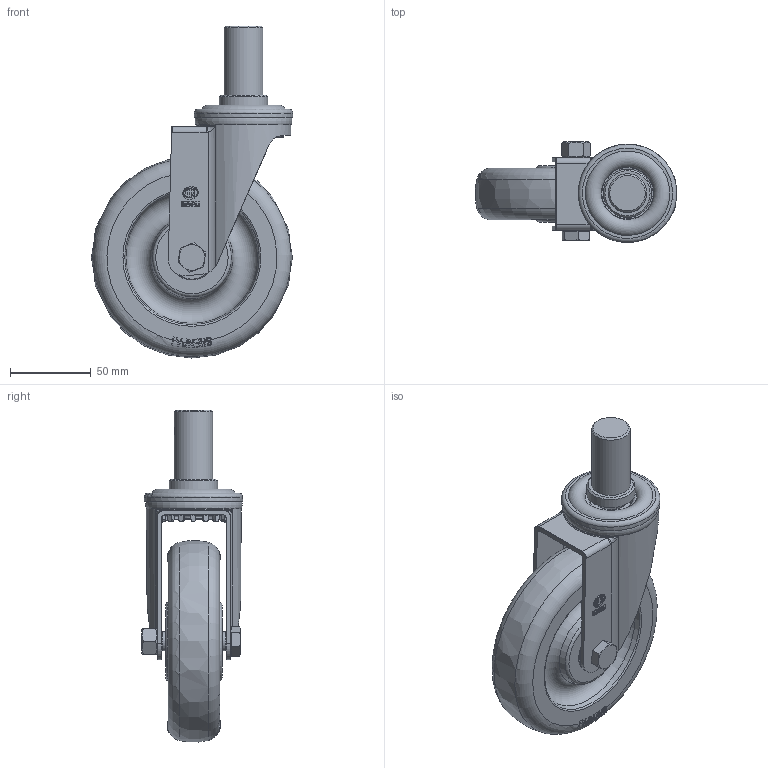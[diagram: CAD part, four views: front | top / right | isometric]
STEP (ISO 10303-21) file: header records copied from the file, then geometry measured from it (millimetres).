
FILE_DESCRIPTION(/* description */ (''),/* implementation_level */ '2;1');
FILE_NAME(/* name */ '20A33_5_F.stp',/* time_stamp */ '2022-10-06T14:52:41+08:00',/* author */ (''),/* organization */ (''),/* preprocessor_version */ 'ST-DEVELOPER v14',/* originating_system */ 'SIEMENS PLM Software NX 8.0',/* authorisation */ '');
FILE_SCHEMA (('AUTOMOTIVE_DESIGN { 1 0 10303 214 3 1 1 1 }'));
Length unit declared in the file: millimetre
Products named in the file (1): 20A33_5_F
Bounding box: 124.88 x 62.75 x 205.88 mm (x, y, z)
Volume: 399232.6 mm3; surface area: 92123.4 mm2
Topology: 1 solids, 2 shells, 826 faces, 2348 edges, 1560 vertices
Faces by surface type: plane 459, cylinder 159, torus 82, cone 45, sphere 38, extrusion 34, bspline 9
Full cylindrical faces by diameter (mm): 6 x1, 10 x2, 10.3 x2, 11.8 x3, 12 x2, 12.2 x1, 12.496 x1, 16 x1, 16.8 x1, 18 x1, 24 x2, 28 x2, 30 x1, 30.122 x1, 45.996 x1, 54 x1, 56 x1, 57.6 x1, 59 x1, 61 x1
Entity records: 31327 total; most frequent: CARTESIAN_POINT 12376, ORIENTED_EDGE 4218, DIRECTION 3319, EDGE_CURVE 2109, VERTEX_POINT 1442, AXIS2_PLACEMENT_3D 1228, EDGE_LOOP 981, B_SPLINE_CURVE_WITH_KNOTS 867
